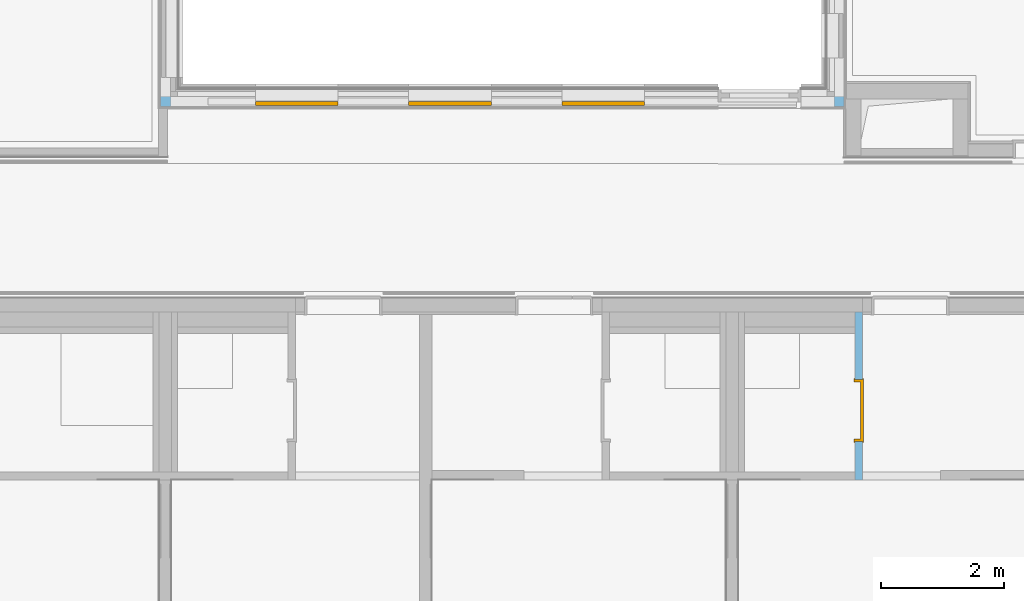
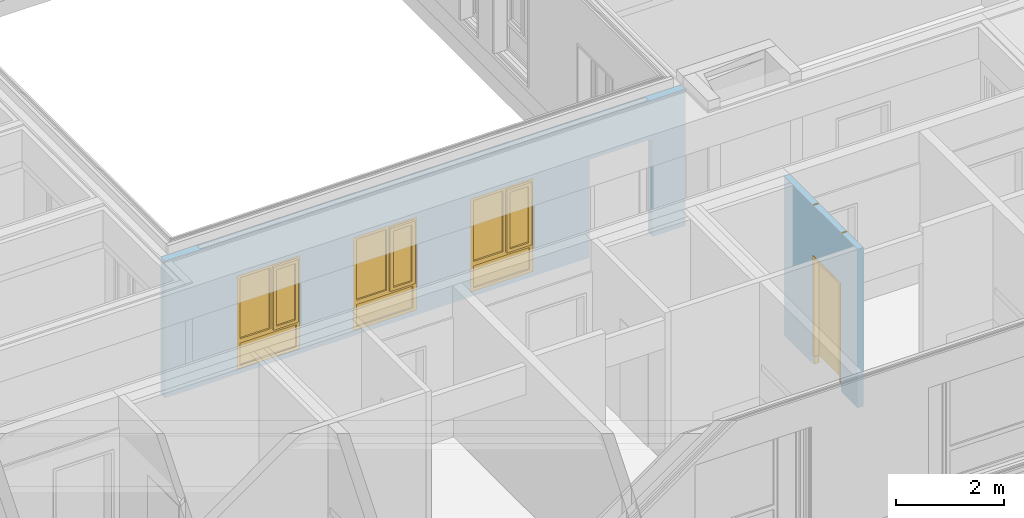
# One storey, part 73 of 207: 3 windows, 1 door, 5 openings, plus 2 elements that do not belong to this part.
"""IFC4 building model written with IfcOpenShell, lengths in metres."""

from ifc_helpers import new_model, entity, si_unit, converted_unit, derived_unit, frame, frame_2d, origin, origin_with_axes, place, context, subcontext, project, spatial, polyline, rectangle, outline, extrude, clip, bounded_halfspace, closed_shell, open_shell, faceted_brep, surface_model, source, transform, mapped, material, type_object, element, fill, save


model = new_model("IFC4")

# Units and contexts
model_context = context("Model", 3, precision=1e-05, world=origin())
body_context = subcontext(model_context, "Body", "Model", "MODEL_VIEW")
ifc_project = project(units=[si_unit("LENGTHUNIT", "METRE"), si_unit("AREAUNIT", "SQUARE_METRE"), si_unit("VOLUMEUNIT", "CUBIC_METRE"), si_unit("MASSUNIT", "GRAM", prefix="KILO"), converted_unit("PLANEANGLEUNIT", "DEGREE", entity("IfcPlaneAngleMeasure", 0.0174532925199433), si_unit("PLANEANGLEUNIT", "RADIAN"), dimensions=[0, 0, 0, 0, 0, 0, 0]), derived_unit("THERMALTRANSMITTANCEUNIT", [(si_unit("POWERUNIT", "WATT"), 1), (si_unit("THERMODYNAMICTEMPERATUREUNIT", "KELVIN"), -1), (si_unit("LENGTHUNIT", "METRE"), -2)]), derived_unit("VOLUMETRICFLOWRATEUNIT", [(si_unit("LENGTHUNIT", "METRE"), 3), (converted_unit("TIMEUNIT", "hour", entity("IfcTimeMeasure", 3600.0), si_unit("TIMEUNIT", "SECOND"), dimensions=[0, 0, 1, 0, 0, 0, 0]), -1), (si_unit("LENGTHUNIT", "METRE"), -1)])], contexts=[model_context])

# Site, building, storey
site_placement = place(None, origin())
site = spatial("IfcSite", under=ifc_project, at=site_placement, Name="Psychiatrie Neubau Wunstorf", CompositionType="ELEMENT")
building_placement = place(site_placement, origin())
building = spatial("IfcBuilding", under=site, at=building_placement, Name="Neubau H2 Stationsgebäude", CompositionType="ELEMENT")
storey_placement = place(building_placement, frame((0.0, 0.0, -0.2)))
storey = spatial("IfcBuildingStorey", under=building, at=storey_placement, Name="H2 Ebene 0", CompositionType="ELEMENT", Elevation=-0.2)

# Wall, openings, windows
ifc_material_1 = material(Name="WA-HD")
wall_1_placement = place(storey_placement, frame((15.675, 7.45, 0.5)))
wall_1 = element("IfcWall", 1, at=wall_1_placement, inside=storey, material=ifc_material_1, context=body_context, shape_type="Clipping", body=[
    clip(extrude(rectangle(XDim=11.15, YDim=0.16, at=frame_2d((5.57499999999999, 0.08), x_axis=(1.0, 0.0))), origin_with_axes(), (0.0, 0.0, 1.0), 3.1), bounded_halfspace(frame((5.57499929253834, 0.0800017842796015, 2.82), z_axis=(0.0, 0.0, -1.0), x_axis=(3.71484293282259e-07, -0.999999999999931, 0.0)), True, origin_with_axes(), polyline([(0.771890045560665, 0.139999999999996), (0.771890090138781, 0.0200000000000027), (10.378108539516, 0.0200035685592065), (10.3781084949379, 0.1400035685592), (0.771890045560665, 0.139999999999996)]))),
])
opening_1_placement = place(wall_1_placement, frame((7.89516867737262, 0.16, 0.1), z_axis=(0.0, -1.0, 0.0), x_axis=(0.0, 0.0, 1.0)))
opening_1 = element("IfcOpeningElement", 2, at=opening_1_placement, cuts=wall_1, Name="Fensteröffnung", ObjectType="Opening", context=body_context, shape_type="SweptSolid", body=[
    extrude(outline(polyline([(2.12, 1.35), (2.12, 0.0), (0.0, 0.0), (0.0, 1.35), (2.12, 1.35)])), origin_with_axes(), (0.0, 0.0, 1.0), 0.16),
])
opening_2_placement = place(wall_1_placement, frame((5.39516867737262, 0.16, 0.1), z_axis=(0.0, -1.0, 0.0), x_axis=(0.0, 0.0, 1.0)))
opening_2 = element("IfcOpeningElement", 3, at=opening_2_placement, cuts=wall_1, Name="Fensteröffnung", ObjectType="Opening", context=body_context, shape_type="SweptSolid", body=[
    extrude(outline(polyline([(2.12, 1.35), (2.12, 0.0), (0.0, 0.0), (0.0, 1.35), (2.12, 1.35)])), origin_with_axes(), (0.0, 0.0, 1.0), 0.16),
])
opening_3_placement = place(wall_1_placement, frame((2.89516867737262, 0.16, 0.1), z_axis=(0.0, -1.0, 0.0), x_axis=(0.0, 0.0, 1.0)))
opening_3 = element("IfcOpeningElement", 4, at=opening_3_placement, cuts=wall_1, Name="Fensteröffnung", ObjectType="Opening", context=body_context, shape_type="SweptSolid", body=[
    extrude(outline(polyline([(2.12, 1.35), (2.12, 0.0), (0.0, 0.0), (0.0, 1.35), (2.12, 1.35)])), origin_with_axes(), (0.0, 0.0, 1.0), 0.16),
])
opening_4_placement = place(wall_1_placement, frame((10.4451686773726, 0.16, -0.5), z_axis=(0.0, -1.0, 0.0), x_axis=(0.0, 0.0, 1.0)))
element("IfcOpeningElement", 5, at=opening_4_placement, cuts=wall_1, Name="Türöffnung", ObjectType="Opening", context=body_context, shape_type="SweptSolid", body=[
    extrude(outline(polyline([(2.72, 1.35), (2.72, 0.0), (0.0, 0.0), (0.0, 1.35), (2.72, 1.35)])), origin_with_axes(), (0.0, 0.0, 1.0), 0.16),
])
shared_shape_1 = source(origin_with_axes(), body_context, "Body", "SurfaceModel", [
    surface_model("IfcShellBasedSurfaceModel", [(1.35, 0.0, 2.12), (1.35, 0.0, 0.0), (1.28, 0.0, 0.0), (1.28, 0.0, 2.12), (1.35, 0.07, 0.0), (1.35, 0.07, 2.12), (1.28, 0.07, 2.12), (1.28, 0.07, 0.0)], [closed_shell([[[0, 1, 2, 3]], [[4, 5, 6, 7]], [[1, 0, 5, 4]], [[2, 1, 4, 7]], [[3, 2, 7, 6]], [[0, 3, 6, 5]]], orient=[[False], [False], [False], [False], [False], [False]])]),
    surface_model("IfcShellBasedSurfaceModel", [(0.07, 0.0, 2.12), (0.07, 0.0, 0.0), (0.0, 0.0, 0.0), (0.0, 0.0, 2.12), (0.07, 0.07, 0.0), (0.07, 0.07, 2.12), (0.0, 0.07, 2.12), (0.0, 0.07, 0.0)], [closed_shell([[[0, 1, 2, 3]], [[4, 5, 6, 7]], [[1, 0, 5, 4]], [[2, 1, 4, 7]], [[3, 2, 7, 6]], [[0, 3, 6, 5]]], orient=[[False], [False], [False], [False], [False], [False]])]),
    surface_model("IfcShellBasedSurfaceModel", [(1.28, 0.0, 0.07), (1.28, 0.0, 0.0), (0.07, 0.0, 0.0), (0.07, 0.0, 0.07), (1.28, 0.07, 0.0), (1.28, 0.07, 0.07), (0.07, 0.07, 0.07), (0.07, 0.07, 0.0)], [closed_shell([[[0, 1, 2, 3]], [[4, 5, 6, 7]], [[1, 0, 5, 4]], [[2, 1, 4, 7]], [[3, 2, 7, 6]], [[0, 3, 6, 5]]], orient=[[False], [False], [False], [False], [False], [False]])]),
    surface_model("IfcShellBasedSurfaceModel", [(1.28, 0.0, 2.12), (1.28, 0.0, 2.05), (0.07, 0.0, 2.05), (0.07, 0.0, 2.12), (1.28, 0.07, 2.05), (1.28, 0.07, 2.12), (0.07, 0.07, 2.12), (0.07, 0.07, 2.05)], [closed_shell([[[0, 1, 2, 3]], [[4, 5, 6, 7]], [[1, 0, 5, 4]], [[2, 1, 4, 7]], [[3, 2, 7, 6]], [[0, 3, 6, 5]]], orient=[[False], [False], [False], [False], [False], [False]])]),
    surface_model("IfcShellBasedSurfaceModel", [(1.28, 0.0, 0.67), (1.28, 0.0, 0.57), (0.07, 0.0, 0.57), (0.07, 0.0, 0.67), (1.28, 0.07, 0.57), (1.28, 0.07, 0.67), (0.07, 0.07, 0.67), (0.07, 0.07, 0.57)], [closed_shell([[[0, 1, 2, 3]], [[4, 5, 6, 7]], [[1, 0, 5, 4]], [[2, 1, 4, 7]], [[3, 2, 7, 6]], [[0, 3, 6, 5]]], orient=[[False], [False], [False], [False], [False], [False]])]),
    surface_model("IfcShellBasedSurfaceModel", [(1.28, 0.035, 0.07), (0.07, 0.035, 0.07), (0.07, 0.035, 0.57), (1.28, 0.035, 0.57)], [open_shell([[[0, 1, 2, 3]]], orient=[[False]])]),
    surface_model("IfcShellBasedSurfaceModel", [(0.78, 0.0, 2.05), (0.78, 0.0, 0.67), (0.71, 0.0, 0.67), (0.71, 0.0, 2.05), (0.78, 0.07, 0.67), (0.78, 0.07, 2.05), (0.71, 0.07, 2.05), (0.71, 0.07, 0.67)], [closed_shell([[[0, 1, 2, 3]], [[4, 5, 6, 7]], [[1, 0, 5, 4]], [[2, 1, 4, 7]], [[3, 2, 7, 6]], [[0, 3, 6, 5]]], orient=[[False], [False], [False], [False], [False], [False]])]),
    surface_model("IfcShellBasedSurfaceModel", [(1.3, -0.05, 2.07), (1.3, -0.05, 0.65), (1.23, -0.05, 0.65), (1.23, -0.05, 2.07), (1.3, 0.02, 0.65), (1.3, 0.02, 2.07), (1.23, 0.02, 2.07), (1.23, 0.02, 0.65)], [closed_shell([[[0, 1, 2, 3]], [[4, 5, 6, 7]], [[1, 0, 5, 4]], [[2, 1, 4, 7]], [[3, 2, 7, 6]], [[0, 3, 6, 5]]], orient=[[False], [False], [False], [False], [False], [False]])]),
    surface_model("IfcShellBasedSurfaceModel", [(0.83, -0.05, 2.07), (0.83, -0.05, 0.65), (0.76, -0.05, 0.65), (0.76, -0.05, 2.07), (0.83, 0.02, 0.65), (0.83, 0.02, 2.07), (0.76, 0.02, 2.07), (0.76, 0.02, 0.65)], [closed_shell([[[0, 1, 2, 3]], [[4, 5, 6, 7]], [[1, 0, 5, 4]], [[2, 1, 4, 7]], [[3, 2, 7, 6]], [[0, 3, 6, 5]]], orient=[[False], [False], [False], [False], [False], [False]])]),
    surface_model("IfcShellBasedSurfaceModel", [(1.23, -0.05, 0.72), (1.23, -0.05, 0.65), (0.83, -0.05, 0.65), (0.83, -0.05, 0.72), (1.23, 0.02, 0.65), (1.23, 0.02, 0.72), (0.83, 0.02, 0.72), (0.83, 0.02, 0.65)], [closed_shell([[[0, 1, 2, 3]], [[4, 5, 6, 7]], [[1, 0, 5, 4]], [[2, 1, 4, 7]], [[3, 2, 7, 6]], [[0, 3, 6, 5]]], orient=[[False], [False], [False], [False], [False], [False]])]),
    surface_model("IfcShellBasedSurfaceModel", [(1.23, -0.05, 2.07), (1.23, -0.05, 2.0), (0.83, -0.05, 2.0), (0.83, -0.05, 2.07), (1.23, 0.02, 2.0), (1.23, 0.02, 2.07), (0.83, 0.02, 2.07), (0.83, 0.02, 2.0)], [closed_shell([[[0, 1, 2, 3]], [[4, 5, 6, 7]], [[1, 0, 5, 4]], [[2, 1, 4, 7]], [[3, 2, 7, 6]], [[0, 3, 6, 5]]], orient=[[False], [False], [False], [False], [False], [False]])]),
    surface_model("IfcShellBasedSurfaceModel", [(0.71, 0.035, 0.67), (0.07, 0.035, 0.67), (0.07, 0.035, 2.05), (0.71, 0.035, 2.05)], [open_shell([[[0, 1, 2, 3]]], orient=[[False]])]),
    surface_model("IfcShellBasedSurfaceModel", [(1.23, -0.015, 0.72), (0.83, -0.015, 0.72), (0.83, -0.015, 2.0), (1.23, -0.015, 2.0)], [open_shell([[[0, 1, 2, 3]]], orient=[[False]])]),
])
window_1_placement = place(opening_1_placement, frame((0.0, 1.35, 0.146), z_axis=(1.0, 0.0, 0.0), x_axis=(0.0, -1.0, 0.0)))
window_1 = element("IfcWindow", 6, at=window_1_placement, inside=storey, Name="Fenster", OverallHeight=2.12, OverallWidth=1.35, PartitioningType="USERDEFINED", PredefinedType="WINDOW", context=body_context, shape_type="MappedRepresentation", body=[
    mapped(shared_shape_1, transform((0.0, 0.0, 0.0), x_axis=(1.0, 0.0, 0.0), y_axis=(0.0, 1.0, 0.0), z_axis=(0.0, 0.0, 1.0), scale=1.0)),
])
fill(opening_1, window_1)
shared_shape_2 = source(origin_with_axes(), body_context, "Body", "SurfaceModel", [
    surface_model("IfcShellBasedSurfaceModel", [(1.35, 0.0, 2.12), (1.35, 0.0, 0.0), (1.28, 0.0, 0.0), (1.28, 0.0, 2.12), (1.35, 0.07, 0.0), (1.35, 0.07, 2.12), (1.28, 0.07, 2.12), (1.28, 0.07, 0.0)], [closed_shell([[[0, 1, 2, 3]], [[4, 5, 6, 7]], [[1, 0, 5, 4]], [[2, 1, 4, 7]], [[3, 2, 7, 6]], [[0, 3, 6, 5]]], orient=[[False], [False], [False], [False], [False], [False]])]),
    surface_model("IfcShellBasedSurfaceModel", [(0.07, 0.0, 2.12), (0.07, 0.0, 0.0), (0.0, 0.0, 0.0), (0.0, 0.0, 2.12), (0.07, 0.07, 0.0), (0.07, 0.07, 2.12), (0.0, 0.07, 2.12), (0.0, 0.07, 0.0)], [closed_shell([[[0, 1, 2, 3]], [[4, 5, 6, 7]], [[1, 0, 5, 4]], [[2, 1, 4, 7]], [[3, 2, 7, 6]], [[0, 3, 6, 5]]], orient=[[False], [False], [False], [False], [False], [False]])]),
    surface_model("IfcShellBasedSurfaceModel", [(1.28, 0.0, 0.07), (1.28, 0.0, 0.0), (0.07, 0.0, 0.0), (0.07, 0.0, 0.07), (1.28, 0.07, 0.0), (1.28, 0.07, 0.07), (0.07, 0.07, 0.07), (0.07, 0.07, 0.0)], [closed_shell([[[0, 1, 2, 3]], [[4, 5, 6, 7]], [[1, 0, 5, 4]], [[2, 1, 4, 7]], [[3, 2, 7, 6]], [[0, 3, 6, 5]]], orient=[[False], [False], [False], [False], [False], [False]])]),
    surface_model("IfcShellBasedSurfaceModel", [(1.28, 0.0, 2.12), (1.28, 0.0, 2.05), (0.07, 0.0, 2.05), (0.07, 0.0, 2.12), (1.28, 0.07, 2.05), (1.28, 0.07, 2.12), (0.07, 0.07, 2.12), (0.07, 0.07, 2.05)], [closed_shell([[[0, 1, 2, 3]], [[4, 5, 6, 7]], [[1, 0, 5, 4]], [[2, 1, 4, 7]], [[3, 2, 7, 6]], [[0, 3, 6, 5]]], orient=[[False], [False], [False], [False], [False], [False]])]),
    surface_model("IfcShellBasedSurfaceModel", [(1.28, 0.0, 0.67), (1.28, 0.0, 0.57), (0.07, 0.0, 0.57), (0.07, 0.0, 0.67), (1.28, 0.07, 0.57), (1.28, 0.07, 0.67), (0.07, 0.07, 0.67), (0.07, 0.07, 0.57)], [closed_shell([[[0, 1, 2, 3]], [[4, 5, 6, 7]], [[1, 0, 5, 4]], [[2, 1, 4, 7]], [[3, 2, 7, 6]], [[0, 3, 6, 5]]], orient=[[False], [False], [False], [False], [False], [False]])]),
    surface_model("IfcShellBasedSurfaceModel", [(1.28, 0.035, 0.07), (0.07, 0.035, 0.07), (0.07, 0.035, 0.57), (1.28, 0.035, 0.57)], [open_shell([[[0, 1, 2, 3]]], orient=[[False]])]),
    surface_model("IfcShellBasedSurfaceModel", [(0.78, 0.0, 2.05), (0.78, 0.0, 0.67), (0.71, 0.0, 0.67), (0.71, 0.0, 2.05), (0.78, 0.07, 0.67), (0.78, 0.07, 2.05), (0.71, 0.07, 2.05), (0.71, 0.07, 0.67)], [closed_shell([[[0, 1, 2, 3]], [[4, 5, 6, 7]], [[1, 0, 5, 4]], [[2, 1, 4, 7]], [[3, 2, 7, 6]], [[0, 3, 6, 5]]], orient=[[False], [False], [False], [False], [False], [False]])]),
    surface_model("IfcShellBasedSurfaceModel", [(1.3, -0.05, 2.07), (1.3, -0.05, 0.65), (1.23, -0.05, 0.65), (1.23, -0.05, 2.07), (1.3, 0.02, 0.65), (1.3, 0.02, 2.07), (1.23, 0.02, 2.07), (1.23, 0.02, 0.65)], [closed_shell([[[0, 1, 2, 3]], [[4, 5, 6, 7]], [[1, 0, 5, 4]], [[2, 1, 4, 7]], [[3, 2, 7, 6]], [[0, 3, 6, 5]]], orient=[[False], [False], [False], [False], [False], [False]])]),
    surface_model("IfcShellBasedSurfaceModel", [(0.83, -0.05, 2.07), (0.83, -0.05, 0.65), (0.76, -0.05, 0.65), (0.76, -0.05, 2.07), (0.83, 0.02, 0.65), (0.83, 0.02, 2.07), (0.76, 0.02, 2.07), (0.76, 0.02, 0.65)], [closed_shell([[[0, 1, 2, 3]], [[4, 5, 6, 7]], [[1, 0, 5, 4]], [[2, 1, 4, 7]], [[3, 2, 7, 6]], [[0, 3, 6, 5]]], orient=[[False], [False], [False], [False], [False], [False]])]),
    surface_model("IfcShellBasedSurfaceModel", [(1.23, -0.05, 0.72), (1.23, -0.05, 0.65), (0.83, -0.05, 0.65), (0.83, -0.05, 0.72), (1.23, 0.02, 0.65), (1.23, 0.02, 0.72), (0.83, 0.02, 0.72), (0.83, 0.02, 0.65)], [closed_shell([[[0, 1, 2, 3]], [[4, 5, 6, 7]], [[1, 0, 5, 4]], [[2, 1, 4, 7]], [[3, 2, 7, 6]], [[0, 3, 6, 5]]], orient=[[False], [False], [False], [False], [False], [False]])]),
    surface_model("IfcShellBasedSurfaceModel", [(1.23, -0.05, 2.07), (1.23, -0.05, 2.0), (0.83, -0.05, 2.0), (0.83, -0.05, 2.07), (1.23, 0.02, 2.0), (1.23, 0.02, 2.07), (0.83, 0.02, 2.07), (0.83, 0.02, 2.0)], [closed_shell([[[0, 1, 2, 3]], [[4, 5, 6, 7]], [[1, 0, 5, 4]], [[2, 1, 4, 7]], [[3, 2, 7, 6]], [[0, 3, 6, 5]]], orient=[[False], [False], [False], [False], [False], [False]])]),
    surface_model("IfcShellBasedSurfaceModel", [(0.71, 0.035, 0.67), (0.07, 0.035, 0.67), (0.07, 0.035, 2.05), (0.71, 0.035, 2.05)], [open_shell([[[0, 1, 2, 3]]], orient=[[False]])]),
    surface_model("IfcShellBasedSurfaceModel", [(1.23, -0.015, 0.72), (0.83, -0.015, 0.72), (0.83, -0.015, 2.0), (1.23, -0.015, 2.0)], [open_shell([[[0, 1, 2, 3]]], orient=[[False]])]),
])
window_2_placement = place(opening_2_placement, frame((0.0, 1.35, 0.146), z_axis=(1.0, 0.0, 0.0), x_axis=(0.0, -1.0, 0.0)))
window_2 = element("IfcWindow", 7, at=window_2_placement, inside=storey, Name="Fenster", OverallHeight=2.12, OverallWidth=1.35, PartitioningType="USERDEFINED", PredefinedType="WINDOW", context=body_context, shape_type="MappedRepresentation", body=[
    mapped(shared_shape_2, transform((0.0, 0.0, 0.0), x_axis=(1.0, 0.0, 0.0), y_axis=(0.0, 1.0, 0.0), z_axis=(0.0, 0.0, 1.0), scale=1.0)),
])
fill(opening_2, window_2)
shared_shape_3 = source(origin_with_axes(), body_context, "Body", "SurfaceModel", [
    surface_model("IfcShellBasedSurfaceModel", [(1.35, 0.0, 2.12), (1.35, 0.0, 0.0), (1.28, 0.0, 0.0), (1.28, 0.0, 2.12), (1.35, 0.07, 0.0), (1.35, 0.07, 2.12), (1.28, 0.07, 2.12), (1.28, 0.07, 0.0)], [closed_shell([[[0, 1, 2, 3]], [[4, 5, 6, 7]], [[1, 0, 5, 4]], [[2, 1, 4, 7]], [[3, 2, 7, 6]], [[0, 3, 6, 5]]], orient=[[False], [False], [False], [False], [False], [False]])]),
    surface_model("IfcShellBasedSurfaceModel", [(0.07, 0.0, 2.12), (0.07, 0.0, 0.0), (0.0, 0.0, 0.0), (0.0, 0.0, 2.12), (0.07, 0.07, 0.0), (0.07, 0.07, 2.12), (0.0, 0.07, 2.12), (0.0, 0.07, 0.0)], [closed_shell([[[0, 1, 2, 3]], [[4, 5, 6, 7]], [[1, 0, 5, 4]], [[2, 1, 4, 7]], [[3, 2, 7, 6]], [[0, 3, 6, 5]]], orient=[[False], [False], [False], [False], [False], [False]])]),
    surface_model("IfcShellBasedSurfaceModel", [(1.28, 0.0, 0.07), (1.28, 0.0, 0.0), (0.07, 0.0, 0.0), (0.07, 0.0, 0.07), (1.28, 0.07, 0.0), (1.28, 0.07, 0.07), (0.07, 0.07, 0.07), (0.07, 0.07, 0.0)], [closed_shell([[[0, 1, 2, 3]], [[4, 5, 6, 7]], [[1, 0, 5, 4]], [[2, 1, 4, 7]], [[3, 2, 7, 6]], [[0, 3, 6, 5]]], orient=[[False], [False], [False], [False], [False], [False]])]),
    surface_model("IfcShellBasedSurfaceModel", [(1.28, 0.0, 2.12), (1.28, 0.0, 2.05), (0.07, 0.0, 2.05), (0.07, 0.0, 2.12), (1.28, 0.07, 2.05), (1.28, 0.07, 2.12), (0.07, 0.07, 2.12), (0.07, 0.07, 2.05)], [closed_shell([[[0, 1, 2, 3]], [[4, 5, 6, 7]], [[1, 0, 5, 4]], [[2, 1, 4, 7]], [[3, 2, 7, 6]], [[0, 3, 6, 5]]], orient=[[False], [False], [False], [False], [False], [False]])]),
    surface_model("IfcShellBasedSurfaceModel", [(1.28, 0.0, 0.67), (1.28, 0.0, 0.57), (0.07, 0.0, 0.57), (0.07, 0.0, 0.67), (1.28, 0.07, 0.57), (1.28, 0.07, 0.67), (0.07, 0.07, 0.67), (0.07, 0.07, 0.57)], [closed_shell([[[0, 1, 2, 3]], [[4, 5, 6, 7]], [[1, 0, 5, 4]], [[2, 1, 4, 7]], [[3, 2, 7, 6]], [[0, 3, 6, 5]]], orient=[[False], [False], [False], [False], [False], [False]])]),
    surface_model("IfcShellBasedSurfaceModel", [(1.28, 0.035, 0.07), (0.07, 0.035, 0.07), (0.07, 0.035, 0.57), (1.28, 0.035, 0.57)], [open_shell([[[0, 1, 2, 3]]], orient=[[False]])]),
    surface_model("IfcShellBasedSurfaceModel", [(0.78, 0.0, 2.05), (0.78, 0.0, 0.67), (0.71, 0.0, 0.67), (0.71, 0.0, 2.05), (0.78, 0.07, 0.67), (0.78, 0.07, 2.05), (0.71, 0.07, 2.05), (0.71, 0.07, 0.67)], [closed_shell([[[0, 1, 2, 3]], [[4, 5, 6, 7]], [[1, 0, 5, 4]], [[2, 1, 4, 7]], [[3, 2, 7, 6]], [[0, 3, 6, 5]]], orient=[[False], [False], [False], [False], [False], [False]])]),
    surface_model("IfcShellBasedSurfaceModel", [(1.3, -0.0500000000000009, 2.07), (1.3, -0.0500000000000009, 0.65), (1.23, -0.0500000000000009, 0.65), (1.23, -0.0500000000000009, 2.07), (1.3, 0.02, 0.65), (1.3, 0.0199999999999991, 2.07), (1.23, 0.0199999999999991, 2.07), (1.23, 0.02, 0.65)], [closed_shell([[[0, 1, 2, 3]], [[4, 5, 6, 7]], [[1, 0, 5, 4]], [[2, 1, 4, 7]], [[3, 2, 7, 6]], [[0, 3, 6, 5]]], orient=[[False], [False], [False], [False], [False], [False]])]),
    surface_model("IfcShellBasedSurfaceModel", [(0.83, -0.0500000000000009, 2.07), (0.83, -0.0500000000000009, 0.65), (0.76, -0.0500000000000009, 0.65), (0.76, -0.0500000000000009, 2.07), (0.83, 0.02, 0.65), (0.83, 0.0199999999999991, 2.07), (0.76, 0.0199999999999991, 2.07), (0.76, 0.02, 0.65)], [closed_shell([[[0, 1, 2, 3]], [[4, 5, 6, 7]], [[1, 0, 5, 4]], [[2, 1, 4, 7]], [[3, 2, 7, 6]], [[0, 3, 6, 5]]], orient=[[False], [False], [False], [False], [False], [False]])]),
    surface_model("IfcShellBasedSurfaceModel", [(1.23, -0.0500000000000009, 0.72), (1.23, -0.0500000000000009, 0.65), (0.83, -0.0500000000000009, 0.65), (0.83, -0.0500000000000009, 0.72), (1.23, 0.02, 0.65), (1.23, 0.02, 0.72), (0.83, 0.02, 0.72), (0.83, 0.02, 0.65)], [closed_shell([[[0, 1, 2, 3]], [[4, 5, 6, 7]], [[1, 0, 5, 4]], [[2, 1, 4, 7]], [[3, 2, 7, 6]], [[0, 3, 6, 5]]], orient=[[False], [False], [False], [False], [False], [False]])]),
    surface_model("IfcShellBasedSurfaceModel", [(1.23, -0.0500000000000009, 2.07), (1.23, -0.0500000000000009, 2.0), (0.83, -0.0500000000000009, 2.0), (0.83, -0.0500000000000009, 2.07), (1.23, 0.0199999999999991, 2.0), (1.23, 0.0199999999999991, 2.07), (0.83, 0.0199999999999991, 2.07), (0.83, 0.0199999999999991, 2.0)], [closed_shell([[[0, 1, 2, 3]], [[4, 5, 6, 7]], [[1, 0, 5, 4]], [[2, 1, 4, 7]], [[3, 2, 7, 6]], [[0, 3, 6, 5]]], orient=[[False], [False], [False], [False], [False], [False]])]),
    surface_model("IfcShellBasedSurfaceModel", [(0.71, 0.035, 0.67), (0.07, 0.035, 0.67), (0.07, 0.035, 2.05), (0.71, 0.035, 2.05)], [open_shell([[[0, 1, 2, 3]]], orient=[[False]])]),
    surface_model("IfcShellBasedSurfaceModel", [(1.23, -0.0150000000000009, 0.72), (0.83, -0.0150000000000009, 0.72), (0.83, -0.0150000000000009, 2.0), (1.23, -0.0150000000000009, 2.0)], [open_shell([[[0, 1, 2, 3]]], orient=[[False]])]),
])
window_3_placement = place(opening_3_placement, frame((0.0, 1.35, 0.146), z_axis=(1.0, 0.0, 0.0), x_axis=(0.0, -1.0, 0.0)))
window_3 = element("IfcWindow", 8, at=window_3_placement, inside=storey, Name="Fenster", OverallHeight=2.12, OverallWidth=1.35, PartitioningType="USERDEFINED", PredefinedType="WINDOW", context=body_context, shape_type="MappedRepresentation", body=[
    mapped(shared_shape_3, transform((0.0, 0.0, 0.0), x_axis=(1.0, 0.0, 0.0), y_axis=(0.0, 1.0, 0.0), z_axis=(0.0, 0.0, 1.0), scale=1.0)),
])
fill(opening_3, window_3)

# Wall, opening, door
ifc_material_2 = material(Name="WI-LB")
wall_2_placement = place(storey_placement, frame((27.0, 4.09874963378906, 0.0), z_axis=(0.0, 0.0, 1.0), x_axis=(0.0, -1.0, 0.0)))
wall_2 = element("IfcWall", 9, at=wall_2_placement, inside=storey, material=ifc_material_2, context=body_context, shape_type="SweptSolid", body=[
    extrude(rectangle(XDim=2.74, YDim=0.125, at=frame_2d((1.37, 0.0625), x_axis=(1.0, 0.0))), origin_with_axes(), (0.0, 0.0, 1.0), 3.6),
])
opening_5_placement = place(wall_2_placement, frame((1.105, 0.0, 0.0), z_axis=(0.0, 1.0, 0.0), x_axis=(0.0, 0.0, 1.0)))
opening_5 = element("IfcOpeningElement", 10, at=opening_5_placement, cuts=wall_2, Name="Türöffnung", ObjectType="Opening", context=body_context, shape_type="SweptSolid", body=[
    extrude(outline(polyline([(2.46, 1.01), (2.46, 0.0), (0.0, 0.0), (0.0, 1.01), (2.46, 1.01)])), origin_with_axes(), (0.0, 0.0, 1.0), 0.125),
])
ifc_material_3 = material(Name="TI-1F-UZ-D-N")
door_type = type_object("IfcDoorType", Name="SMT", OperationType="SINGLE_SWING_RIGHT", ParameterTakesPrecedence=False, PredefinedType="DOOR")
shared_shape_4 = source(origin_with_axes(), body_context, "Body", "Brep", [
    faceted_brep([(-0.0399999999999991, 0.0124999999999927, 0.0), (0.0, 0.0124999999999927, 0.0), (0.0, 0.112499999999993, 0.0), (-0.0399999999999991, 0.112499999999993, 0.0), (-0.0399999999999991, 0.112499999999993, 3.6), (0.0, 0.112499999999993, 3.6), (0.0, 0.0124999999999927, 3.6), (-0.0399999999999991, 0.0124999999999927, 3.6)], [[[0, 1, 2, 3]], [[4, 5, 6, 7]], [[3, 4, 7, 0]], [[2, 5, 4, 3]], [[1, 6, 5, 2]], [[0, 7, 6, 1]]], orient=[[False], [False], [False], [False], [False], [False]]),
    faceted_brep([(1.01, 0.0124999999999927, 0.0), (1.05, 0.0124999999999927, 0.0), (1.05, 0.112499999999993, 0.0), (1.01, 0.112499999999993, 0.0), (1.01, 0.112499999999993, 3.6), (1.05, 0.112499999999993, 3.6), (1.05, 0.0124999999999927, 3.6), (1.01, 0.0124999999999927, 3.6)], [[[0, 1, 2, 3]], [[4, 5, 6, 7]], [[3, 4, 7, 0]], [[2, 5, 4, 3]], [[1, 6, 5, 2]], [[0, 7, 6, 1]]], orient=[[False], [False], [False], [False], [False], [False]]),
    faceted_brep([(0.0, 0.0124999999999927, 2.46), (1.01, 0.0124999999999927, 2.46), (1.01, 0.112499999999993, 2.46), (0.0, 0.112499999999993, 2.46), (0.0, 0.112499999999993, 2.5), (1.01, 0.112499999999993, 2.5), (1.01, 0.0124999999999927, 2.5), (0.0, 0.0124999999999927, 2.5)], [[[0, 1, 2, 3]], [[4, 5, 6, 7]], [[3, 4, 7, 0]], [[2, 5, 4, 3]], [[1, 6, 5, 2]], [[0, 7, 6, 1]]], orient=[[False], [False], [False], [False], [False], [False]]),
])
shared_shape_5 = source(origin_with_axes(), body_context, "Body", "Brep", [
    faceted_brep([(0.0, -0.0150000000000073, 2.46), (0.0400000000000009, -0.0150000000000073, 2.46), (0.0400000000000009, -0.0150000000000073, 0.2), (0.0, -0.0150000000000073, 0.2), (0.0, 0.139999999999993, 0.2), (0.0400000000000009, 0.139999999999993, 0.2), (0.0400000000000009, 0.139999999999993, 2.46), (0.0, 0.139999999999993, 2.46)], [[[0, 1, 2, 3]], [[4, 5, 6, 7]], [[3, 4, 7, 0]], [[2, 5, 4, 3]], [[1, 6, 5, 2]], [[0, 7, 6, 1]]], orient=[[False], [False], [False], [False], [False], [False]]),
    faceted_brep([(0.0, -0.0150000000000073, 2.475), (0.0, -0.0150000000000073, 0.2), (-0.0149999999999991, -0.0150000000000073, 0.2), (-0.0149999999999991, -0.0150000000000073, 2.475), (0.0, 0.0, 0.2), (0.0, 0.0, 2.475), (-0.0149999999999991, 0.0, 2.475), (-0.0149999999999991, 0.0, 0.2)], [[[0, 1, 2, 3]], [[4, 5, 6, 7]], [[1, 0, 5, 4]], [[2, 1, 4, 7]], [[3, 2, 7, 6]], [[0, 3, 6, 5]]], orient=[[False], [False], [False], [False], [False], [False]]),
    faceted_brep([(0.0, 0.124999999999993, 2.475), (0.0, 0.124999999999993, 0.2), (-0.0149999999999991, 0.124999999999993, 0.2), (-0.0149999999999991, 0.124999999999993, 2.475), (0.0, 0.139999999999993, 0.2), (0.0, 0.139999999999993, 2.475), (-0.0149999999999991, 0.139999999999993, 2.475), (-0.0149999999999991, 0.139999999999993, 0.2)], [[[0, 1, 2, 3]], [[4, 5, 6, 7]], [[1, 0, 5, 4]], [[2, 1, 4, 7]], [[3, 2, 7, 6]], [[0, 3, 6, 5]]], orient=[[False], [False], [False], [False], [False], [False]]),
    faceted_brep([(0.970000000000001, -0.0150000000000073, 2.46), (1.01, -0.0150000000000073, 2.46), (1.01, -0.0150000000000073, 0.2), (0.970000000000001, -0.0150000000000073, 0.2), (0.970000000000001, 0.139999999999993, 0.2), (1.01, 0.139999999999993, 0.2), (1.01, 0.139999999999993, 2.46), (0.970000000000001, 0.139999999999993, 2.46)], [[[0, 1, 2, 3]], [[4, 5, 6, 7]], [[3, 4, 7, 0]], [[2, 5, 4, 3]], [[1, 6, 5, 2]], [[0, 7, 6, 1]]], orient=[[False], [False], [False], [False], [False], [False]]),
    faceted_brep([(1.01, -0.0150000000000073, 2.475), (1.025, -0.0150000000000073, 2.475), (1.025, -0.0150000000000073, 0.2), (1.01, -0.0150000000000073, 0.2), (1.01, 0.0, 0.2), (1.025, 0.0, 0.2), (1.025, 0.0, 2.475), (1.01, 0.0, 2.475)], [[[0, 1, 2, 3]], [[4, 5, 6, 7]], [[3, 4, 7, 0]], [[2, 5, 4, 3]], [[1, 6, 5, 2]], [[0, 7, 6, 1]]], orient=[[False], [False], [False], [False], [False], [False]]),
    faceted_brep([(1.01, 0.124999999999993, 2.475), (1.025, 0.124999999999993, 2.475), (1.025, 0.124999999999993, 0.2), (1.01, 0.124999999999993, 0.2), (1.01, 0.139999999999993, 0.2), (1.025, 0.139999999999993, 0.2), (1.025, 0.139999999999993, 2.475), (1.01, 0.139999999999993, 2.475)], [[[0, 1, 2, 3]], [[4, 5, 6, 7]], [[3, 4, 7, 0]], [[2, 5, 4, 3]], [[1, 6, 5, 2]], [[0, 7, 6, 1]]], orient=[[False], [False], [False], [False], [False], [False]]),
    faceted_brep([(0.0400000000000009, -0.0150000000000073, 2.46), (0.970000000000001, -0.0150000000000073, 2.46), (0.970000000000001, -0.0150000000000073, 2.42), (0.0400000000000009, -0.0150000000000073, 2.42), (0.0400000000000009, 0.139999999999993, 2.42), (0.970000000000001, 0.139999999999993, 2.42), (0.970000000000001, 0.139999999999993, 2.46), (0.0400000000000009, 0.139999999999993, 2.46)], [[[0, 1, 2, 3]], [[4, 5, 6, 7]], [[3, 4, 7, 0]], [[2, 5, 4, 3]], [[1, 6, 5, 2]], [[0, 7, 6, 1]]], orient=[[False], [False], [False], [False], [False], [False]]),
    faceted_brep([(0.0, -0.0150000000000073, 2.475), (1.01, -0.0150000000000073, 2.475), (1.01, -0.0150000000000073, 2.46), (0.0, -0.0150000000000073, 2.46), (0.0, 0.0, 2.46), (1.01, 0.0, 2.46), (1.01, 0.0, 2.475), (0.0, 0.0, 2.475)], [[[0, 1, 2, 3]], [[4, 5, 6, 7]], [[3, 4, 7, 0]], [[2, 5, 4, 3]], [[1, 6, 5, 2]], [[0, 7, 6, 1]]], orient=[[False], [False], [False], [False], [False], [False]]),
    faceted_brep([(0.0, 0.124999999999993, 2.475), (1.01, 0.124999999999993, 2.475), (1.01, 0.124999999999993, 2.46), (0.0, 0.124999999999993, 2.46), (0.0, 0.139999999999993, 2.46), (1.01, 0.139999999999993, 2.46), (1.01, 0.139999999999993, 2.475), (0.0, 0.139999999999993, 2.475)], [[[0, 1, 2, 3]], [[4, 5, 6, 7]], [[3, 4, 7, 0]], [[2, 5, 4, 3]], [[1, 6, 5, 2]], [[0, 7, 6, 1]]], orient=[[False], [False], [False], [False], [False], [False]]),
    faceted_brep([(0.0250000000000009, 0.0909999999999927, 2.435), (0.985000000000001, 0.0909999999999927, 2.435), (0.985000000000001, 0.0909999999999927, 0.2), (0.0250000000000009, 0.0909999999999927, 0.2), (0.0250000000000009, 0.140999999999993, 0.2), (0.985000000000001, 0.140999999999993, 0.2), (0.985000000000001, 0.140999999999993, 2.435), (0.0250000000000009, 0.140999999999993, 2.435)], [[[0, 1, 2, 3]], [[4, 5, 6, 7]], [[3, 4, 7, 0]], [[2, 5, 4, 3]], [[1, 6, 5, 2]], [[0, 7, 6, 1]]], orient=[[False], [False], [False], [False], [False], [False]]),
])
door_placement = place(opening_5_placement, frame((0.0, 0.0, 0.0), z_axis=(1.0, 0.0, 0.0), x_axis=(0.0, 1.0, 0.0)))
door = element("IfcDoor", 11, at=door_placement, inside=storey, type_object=door_type, material=ifc_material_3, Name="SMT", OverallHeight=2.46, OverallWidth=1.01, context=body_context, shape_type="MappedRepresentation", body=[
    mapped(shared_shape_4, transform((0.0, 0.0, 0.0), x_axis=(1.0, 0.0, 0.0), y_axis=(0.0, 1.0, 0.0), z_axis=(0.0, 0.0, 1.0), scale=1.0)),
    mapped(shared_shape_5, transform((0.0, 0.0, 0.0), x_axis=(1.0, 0.0, 0.0), y_axis=(0.0, 1.0, 0.0), z_axis=(0.0, 0.0, 1.0), scale=1.0)),
])
fill(opening_5, door)

save(model, "model.ifc")
